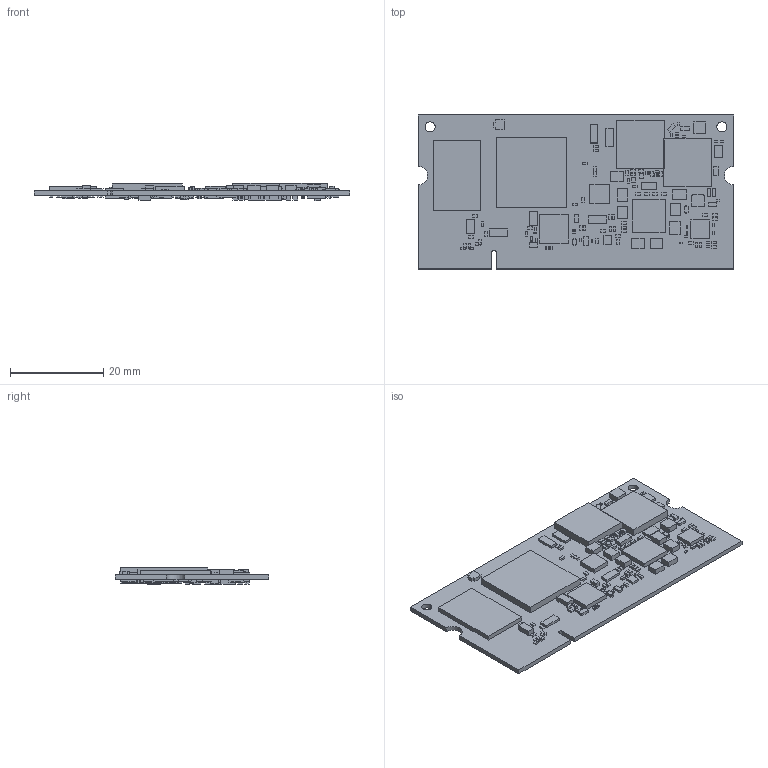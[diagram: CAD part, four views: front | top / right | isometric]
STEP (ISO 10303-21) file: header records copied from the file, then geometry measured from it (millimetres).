
FILE_DESCRIPTION (( 'STEP AP203' ), '1' );
FILE_NAME ('VAR-SOM-MX8M-PLUS_Rev1.1.STEP', '2020-12-02T18:05:22', ( '' ), ( '' ), 'SwSTEP 2.0', 'SolidWorks 2020', '' );
FILE_SCHEMA (( 'CONFIG_CONTROL_DESIGN' ));
Length unit declared in the file: millimetre
Products named in the file (1): VAR-SOM-MX8M-PLUS_Rev1.1
Bounding box: 67.6 x 32.99 x 3.73 mm (x, y, z)
Volume: 3538.9 mm3; surface area: 8266.7 mm2
Topology: 348 solids, 348 shells, 2166 faces, 4410 edges, 2940 vertices
Faces by surface type: plane 2149, cylinder 17
Entity records: 54899 total; most frequent: CARTESIAN_POINT 9517, ORIENTED_EDGE 8820, DIRECTION 8778, EDGE_CURVE 4410, LINE 4376, VECTOR 4376, VERTEX_POINT 2940, AXIS2_PLACEMENT_3D 2201
